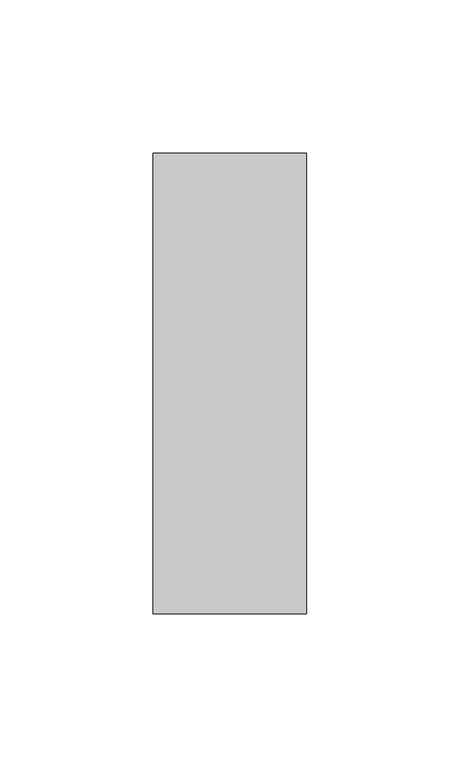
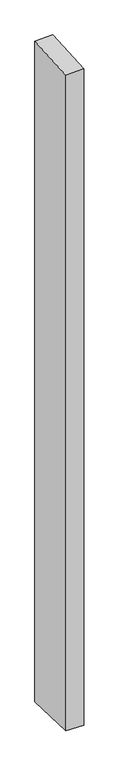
"""IFC4 building model written with IfcOpenShell, lengths in millimetres: member geometry, Прямоугольный импост : 50 x 150 мм."""

from ifc_helpers import new_model, si_unit, origin, place, context, project, spatial, faceted_brep, source, transform, mapped, element, save


def member_a32690ba(model_context):
    return source(origin(), model_context, "Body", "Brep", [
        faceted_brep([(-25.0, 75.0, 4.0917172), (25.0, 75.0, 5.2757128), (25.0, 75.0, -1947.1330545), (-25.0, 75.0, -1946.2146819), (-25.0, -75.0, -5.2757128), (-25.0, -75.0, -1940.2936752), (25.0, -75.0, -4.0917172), (25.0, -75.0, -1941.2120478)], [[[0, 1, 2, 3]], [[4, 0, 3, 5]], [[6, 4, 5, 7]], [[1, 6, 7, 2]], [[1, 0, 4, 6]], [[2, 7, 5, 3]]]),
    ])


if __name__ == "__main__":
    model = new_model("IFC4")
    model_context = context("Model", 3, world=origin())
    ifc_project = project(units=[si_unit("LENGTHUNIT", "METRE", prefix="MILLI")], contexts=[model_context])
    site = spatial("IfcSite", under=ifc_project)
    building = spatial("IfcBuilding", under=site)
    placement = place(None, origin())
    member_shape = member_a32690ba(model_context)
    element("IfcMember", 1, ObjectType="Прямоугольный импост : 50 x 150 мм", at=placement, inside=building, context=model_context, shape_type="MappedRepresentation", body=[
        mapped(member_shape, transform((0.0, 0.0, 0.0), x_axis=(1.0, 0.0, 0.0), y_axis=(0.0, 1.0, 0.0), z_axis=(0.0, 0.0, 1.0))),
    ])
    save(model, "model.ifc")
